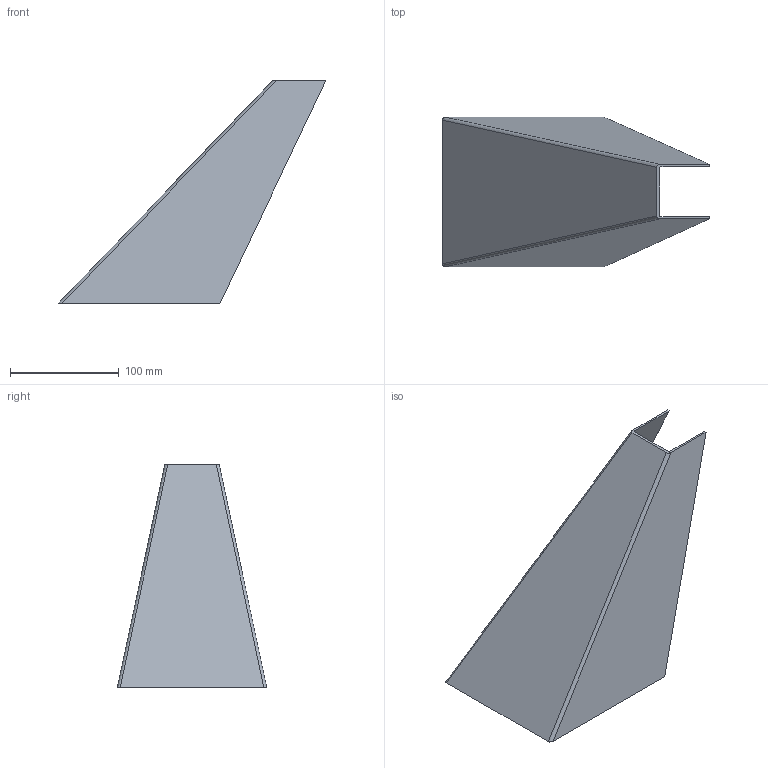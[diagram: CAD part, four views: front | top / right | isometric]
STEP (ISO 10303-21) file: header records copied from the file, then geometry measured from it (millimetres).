
FILE_DESCRIPTION(/* description */ ('Alibre Inc.'),/* implementation_level */ '2;1');
FILE_NAME(/* name */ 'export0',/* time_stamp */ '2010-04-28T15:46:23+02:00',/* author */ (''),/* organization */ (''),/* preprocessor_version */ 'ST-DEVELOPER v10',/* originating_system */ 'Alibre',/* authorisation */ '');
FILE_SCHEMA (('ALIBRE_SCHEMA','CONFIG_CONTROL_DESIGN'));
Length unit declared in the file: centimetre
Products named in the file (1): ID_1
Bounding box: 246.5 x 137.52 x 205 mm (x, y, z)
Volume: 133359.8 mm3; surface area: 135590.1 mm2
Topology: 1 solids, 1 shells, 14 faces, 36 edges, 24 vertices
Faces by surface type: bspline 7, plane 5, cylinder 2
Entity records: 1749 total; most frequent: CARTESIAN_POINT 753, PERSISTANTTOPOLOGYATTRIBUTE 74, ORIENTED_EDGE 72, DIRECTION 70, REFERENCEDEPENDENTUV 44, VECTOR 43, EDGE_CURVE 36, CONSTRAINTPAIRUV 35
